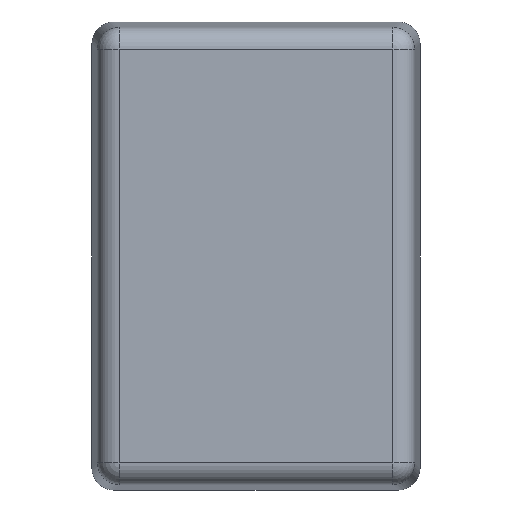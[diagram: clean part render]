
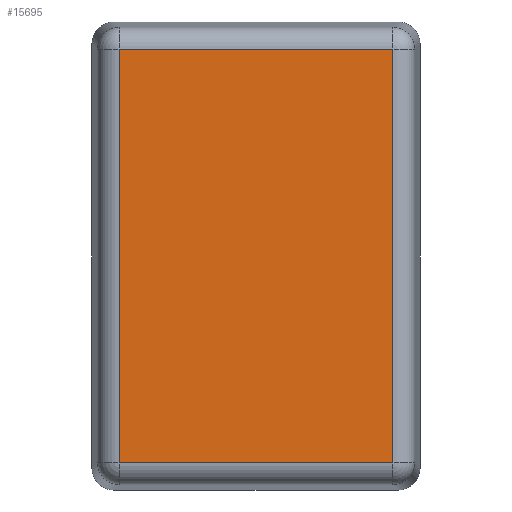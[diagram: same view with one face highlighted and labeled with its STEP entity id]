
A CAD part, front view. The second image highlights one B-rep face of the part: STEP entity #15695.
In plain terms, the highlighted planar face has unit normal (0, -1, 0).
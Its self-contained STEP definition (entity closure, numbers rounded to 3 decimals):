
#590 = AXIS2_PLACEMENT_3D ( 'NONE', #25320, #34691, #31399 ) ;
#1613 = DIRECTION ( 'NONE',  ( 1., 0., 0. ) ) ;
#1797 = ORIENTED_EDGE ( 'NONE', *, *, #17496, .T. ) ;
#3036 = VERTEX_POINT ( 'NONE', #23858 ) ;
#5274 = CARTESIAN_POINT ( 'NONE',  ( -18.052, -20., 23.637 ) ) ;
#8249 = VERTEX_POINT ( 'NONE', #38881 ) ;
#8553 = VERTEX_POINT ( 'NONE', #9674 ) ;
#9590 = ORIENTED_EDGE ( 'NONE', *, *, #26194, .T. ) ;
#9674 = CARTESIAN_POINT ( 'NONE',  ( 15.637, -20., 23.637 ) ) ;
#10053 = EDGE_CURVE ( 'NONE', #3036, #8249, #33446, .T. ) ;
#11535 = CARTESIAN_POINT ( 'NONE',  ( 18.052, -20., -23.637 ) ) ;
#14048 = ORIENTED_EDGE ( 'NONE', *, *, #10053, .T. ) ;
#15471 = FACE_OUTER_BOUND ( 'NONE', #15566, .T. ) ;
#15481 = VECTOR ( 'NONE', #28653, 1000. ) ;
#15566 = EDGE_LOOP ( 'NONE', ( #9590, #14048, #1797, #16905 ) ) ;
#15695 = ADVANCED_FACE ( 'NONE', ( #15471 ), #34983, .F. ) ;
#16905 = ORIENTED_EDGE ( 'NONE', *, *, #28300, .T. ) ;
#16939 = LINE ( 'NONE', #29066, #15481 ) ;
#17496 = EDGE_CURVE ( 'NONE', #8249, #8553, #33645, .T. ) ;
#20656 = CARTESIAN_POINT ( 'NONE',  ( -15.637, -20., 23.637 ) ) ;
#21029 = VERTEX_POINT ( 'NONE', #20656 ) ;
#23751 = VECTOR ( 'NONE', #25683, 1000. ) ;
#23858 = CARTESIAN_POINT ( 'NONE',  ( -15.637, -20., -23.637 ) ) ;
#25320 = CARTESIAN_POINT ( 'NONE',  ( 0., -20., 0. ) ) ;
#25683 = DIRECTION ( 'NONE',  ( 0., 0., 1. ) ) ;
#26194 = EDGE_CURVE ( 'NONE', #21029, #3036, #16939, .T. ) ;
#27525 = VECTOR ( 'NONE', #1613, 1000. ) ;
#28205 = LINE ( 'NONE', #5274, #35623 ) ;
#28300 = EDGE_CURVE ( 'NONE', #8553, #21029, #28205, .T. ) ;
#28653 = DIRECTION ( 'NONE',  ( 0., 0., -1. ) ) ;
#29066 = CARTESIAN_POINT ( 'NONE',  ( -15.637, -20., -26.052 ) ) ;
#31399 = DIRECTION ( 'NONE',  ( 0., 0., 1. ) ) ;
#32056 = CARTESIAN_POINT ( 'NONE',  ( 15.637, -20., 26.052 ) ) ;
#33446 = LINE ( 'NONE', #11535, #27525 ) ;
#33645 = LINE ( 'NONE', #32056, #23751 ) ;
#34691 = DIRECTION ( 'NONE',  ( 0., 1., 0. ) ) ;
#34983 = PLANE ( 'NONE',  #590 ) ;
#35623 = VECTOR ( 'NONE', #36380, 1000. ) ;
#36380 = DIRECTION ( 'NONE',  ( -1., 0., 0. ) ) ;
#38881 = CARTESIAN_POINT ( 'NONE',  ( 15.637, -20., -23.637 ) ) ;
